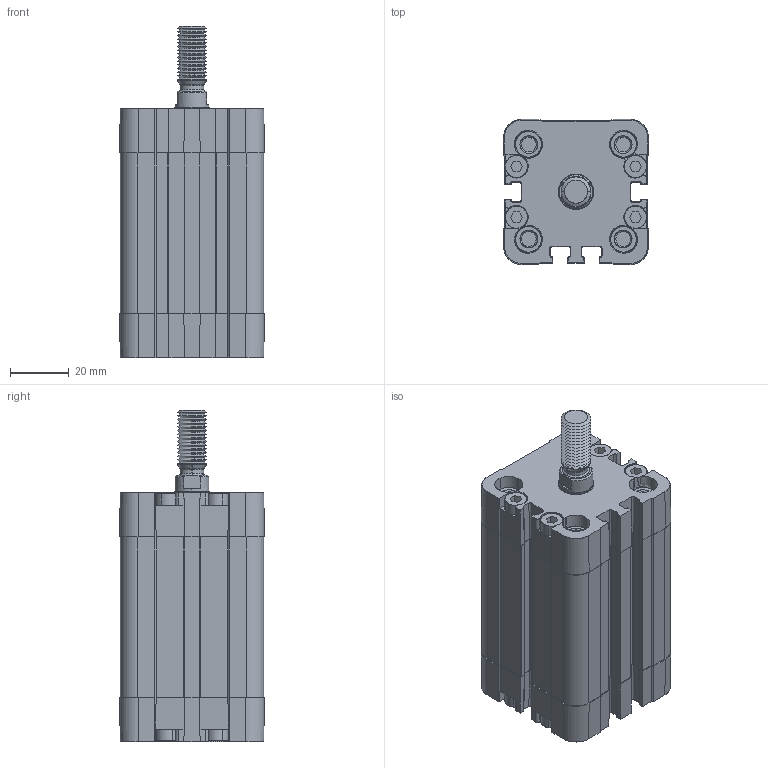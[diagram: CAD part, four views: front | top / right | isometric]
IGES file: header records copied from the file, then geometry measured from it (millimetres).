
Start section: SolidWorks IGES file using analytic representation for surfaces
Global section: file name: W:\_ALTRO\CATALOGO 3D\CYLINDERS\NSK\032\IGES\NSKU 032\NSKU 032 M\NSKU032.0040 M.IGS; native system: SolidWorks 2009; preprocessor: SolidWorks 2009; author: utente03; date: 110613.150002; units: millimetre
Bounding box: 49.2 x 49.2 x 112.5 mm (x, y, z)
Surface area: 56652.2 mm2 (no closed solid volume)
Topology: 0 solids, 0 shells, 1117 faces, 10738 edges, 10722 vertices
Faces by surface type: revolution 586, bspline 531
